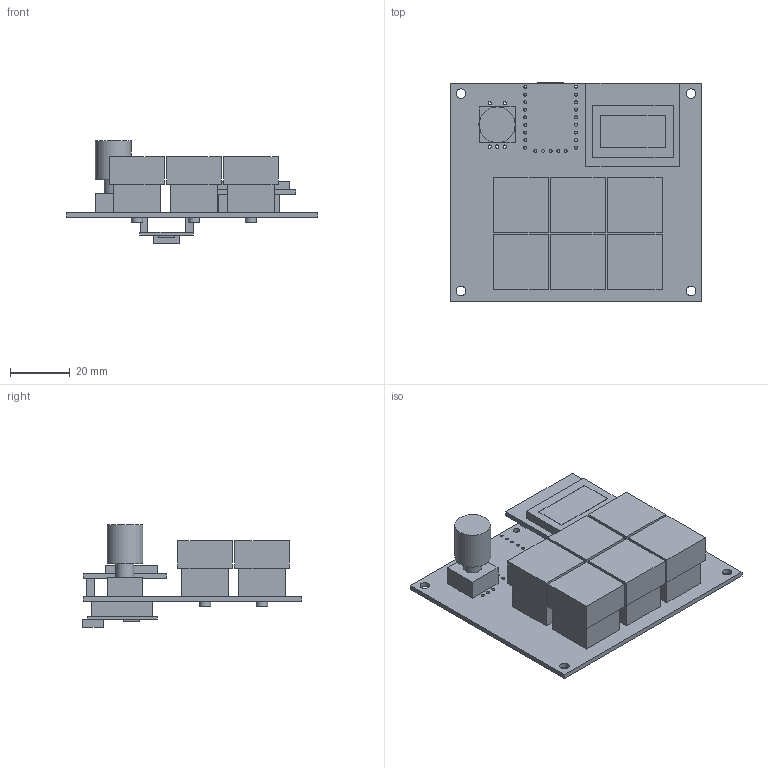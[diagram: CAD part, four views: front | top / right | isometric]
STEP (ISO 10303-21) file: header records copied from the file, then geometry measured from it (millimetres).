
FILE_DESCRIPTION(('Open CASCADE Model'),'2;1');
FILE_NAME('Open CASCADE Shape Model','2026-10-01T17:04:00',('Author'),( 'Open CASCADE'),'Open CASCADE STEP processor 7.9','Open CASCADE 7.9' ,'Unknown');
FILE_SCHEMA(('AUTOMOTIVE_DESIGN { 1 0 10303 214 1 1 1 1 }'));
Length unit declared in the file: millimetre
Products named in the file (32): Open CASCADE STEP translator 7.9 5; Open CASCADE STEP translator 7.9 5.1; Open CASCADE STEP translator 7.9 5.2; Open CASCADE STEP translator 7.9 5.3; Open CASCADE STEP translator 7.9 5.4; Open CASCADE STEP translator 7.9 5.5; Open CASCADE STEP translator 7.9 5.6; Open CASCADE STEP translator 7.9 5.7; Open CASCADE STEP translator 7.9 5.8; Open CASCADE STEP translator 7.9 5.9; Open CASCADE STEP translator 7.9 5.10; Open CASCADE STEP translator 7.9 5.11; Open CASCADE STEP translator 7.9 5.12; Open CASCADE STEP translator 7.9 5.13; Open CASCADE STEP translator 7.9 5.14; Open CASCADE STEP translator 7.9 5.15; Open CASCADE STEP translator 7.9 5.16; Open CASCADE STEP translator 7.9 5.17; Open CASCADE STEP translator 7.9 5.18; Open CASCADE STEP translator 7.9 5.19; Open CASCADE STEP translator 7.9 5.20; Open CASCADE STEP translator 7.9 5.21; Open CASCADE STEP translator 7.9 5.22; Open CASCADE STEP translator 7.9 5.23; Open CASCADE STEP translator 7.9 5.24; Open CASCADE STEP translator 7.9 5.25; Open CASCADE STEP translator 7.9 5.26; Open CASCADE STEP translator 7.9 5.27; Open CASCADE STEP translator 7.9 5.28; Open CASCADE STEP translator 7.9 5.29; Open CASCADE STEP translator 7.9 5.30; Open CASCADE STEP translator 7.9 5.31
Assembly tree (31 placements, depth 2):
  Open CASCADE STEP translator 7.9 5
    Open CASCADE STEP translator 7.9 5.1
    Open CASCADE STEP translator 7.9 5.2
    Open CASCADE STEP translator 7.9 5.3
    Open CASCADE STEP translator 7.9 5.4
    Open CASCADE STEP translator 7.9 5.5
    Open CASCADE STEP translator 7.9 5.6
    Open CASCADE STEP translator 7.9 5.7
    Open CASCADE STEP translator 7.9 5.8
    Open CASCADE STEP translator 7.9 5.9
    Open CASCADE STEP translator 7.9 5.10
    Open CASCADE STEP translator 7.9 5.11
    Open CASCADE STEP translator 7.9 5.12
    Open CASCADE STEP translator 7.9 5.13
    Open CASCADE STEP translator 7.9 5.14
    Open CASCADE STEP translator 7.9 5.15
    Open CASCADE STEP translator 7.9 5.16
    Open CASCADE STEP translator 7.9 5.17
    Open CASCADE STEP translator 7.9 5.18
    Open CASCADE STEP translator 7.9 5.19
    Open CASCADE STEP translator 7.9 5.20
    Open CASCADE STEP translator 7.9 5.21
    Open CASCADE STEP translator 7.9 5.22
    Open CASCADE STEP translator 7.9 5.23
    Open CASCADE STEP translator 7.9 5.24
    Open CASCADE STEP translator 7.9 5.25
    Open CASCADE STEP translator 7.9 5.26
    Open CASCADE STEP translator 7.9 5.27
    Open CASCADE STEP translator 7.9 5.28
    Open CASCADE STEP translator 7.9 5.29
    Open CASCADE STEP translator 7.9 5.30
    Open CASCADE STEP translator 7.9 5.31
Bounding box: 84 x 73.25 x 34.3 mm (x, y, z)
Volume: 52286 mm3; surface area: 36240.7 mm2
Topology: 31 solids, 31 shells, 238 faces, 528 edges, 352 vertices
Faces by surface type: plane 154, cylinder 84
Full cylindrical faces by diameter (mm): 1 x23, 1.02 x8, 1.1 x17, 1.5 x2, 1.702 x12, 2.2 x4, 3.2 x4, 3.8 x6, 4 x6, 6 x1, 12 x1
Entity records: 14732 total; most frequent: CARTESIAN_POINT 3118, DIRECTION 2140, LINE 1248, VECTOR 1248, ORIENTED_EDGE 1056, PCURVE 1056, DEFINITIONAL_REPRESENTATION 1056, EDGE_CURVE 528
